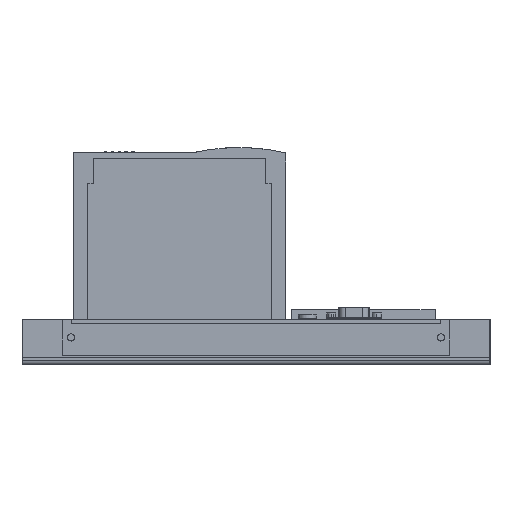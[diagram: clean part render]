
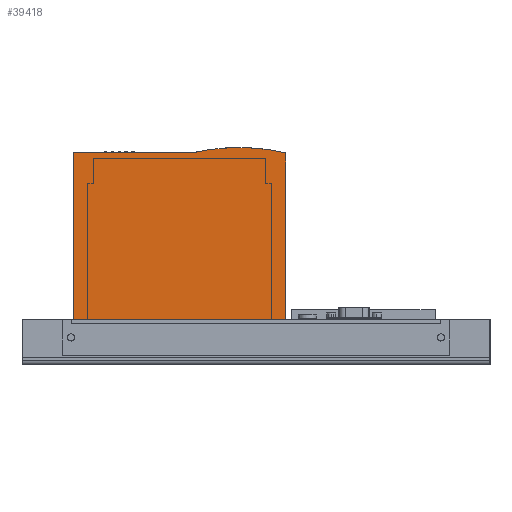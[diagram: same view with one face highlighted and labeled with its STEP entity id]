
A CAD part, left-side view. The second image highlights one B-rep face of the part: STEP entity #39418.
In plain terms, the highlighted planar face has unit normal (-1, 0, 0).
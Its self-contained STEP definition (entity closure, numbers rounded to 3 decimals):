
#645 = EDGE_CURVE ( 'NONE', #67126, #40741, #84949, .T. ) ;
#5664 = AXIS2_PLACEMENT_3D ( 'NONE', #13684, #13693, #13694 ) ;
#11202 = FACE_OUTER_BOUND ( 'NONE', #78831, .T. ) ;
#11274 = EDGE_CURVE ( 'NONE', #67590, #67582, #85828, .T. ) ;
#11276 = EDGE_CURVE ( 'NONE', #67586, #67590, #85834, .T. ) ;
#11278 = EDGE_CURVE ( 'NONE', #67126, #67586, #85832, .T. ) ;
#11280 = EDGE_CURVE ( 'NONE', #67582, #40740, #85838, .T. ) ;
#13684 = CARTESIAN_POINT ( 'NONE',  ( -301.577, -37.3, -65.626 ) ) ;
#13691 = PLANE ( 'NONE',  #5664 ) ;
#13693 = DIRECTION ( 'NONE',  ( -1., 0., 0. ) ) ;
#13694 = DIRECTION ( 'NONE',  ( 0., -1., 0. ) ) ;
#23041 = AXIS2_PLACEMENT_3D ( 'NONE', #50427, #50429, #50431 ) ;
#30741 = CARTESIAN_POINT ( 'NONE',  ( -301.577, -11.3, 32.374 ) ) ;
#30742 = CARTESIAN_POINT ( 'NONE',  ( -301.577, -37.3, 29.374 ) ) ;
#39418 = ADVANCED_FACE ( 'NONE', ( #11202 ), #13691, .T. ) ;
#40740 = VERTEX_POINT ( 'NONE', #30741 ) ;
#40741 = VERTEX_POINT ( 'NONE', #30742 ) ;
#43235 = EDGE_CURVE ( 'NONE', #40740, #40741, #51365, .T. ) ;
#50427 = CARTESIAN_POINT ( 'NONE',  ( -301.577, -11.3, -81.793 ) ) ;
#50429 = DIRECTION ( 'NONE',  ( 1., 0., 0. ) ) ;
#50431 = DIRECTION ( 'NONE',  ( 0., 0., 1. ) ) ;
#51365 = CIRCLE ( 'NONE', #23041, 114.167 ) ;
#60723 = CARTESIAN_POINT ( 'NONE',  ( -301.577, -37.3, -65.626 ) ) ;
#61141 = CARTESIAN_POINT ( 'NONE',  ( -301.577, 14.7, 29.374 ) ) ;
#61145 = CARTESIAN_POINT ( 'NONE',  ( -301.577, 80.7, -65.626 ) ) ;
#61149 = CARTESIAN_POINT ( 'NONE',  ( -301.577, 80.7, 29.374 ) ) ;
#67126 = VERTEX_POINT ( 'NONE', #60723 ) ;
#67582 = VERTEX_POINT ( 'NONE', #61141 ) ;
#67586 = VERTEX_POINT ( 'NONE', #61145 ) ;
#67590 = VERTEX_POINT ( 'NONE', #61149 ) ;
#76787 = AXIS2_PLACEMENT_3D ( 'NONE', #86841, #86842, #86843 ) ;
#78831 = EDGE_LOOP ( 'NONE', ( #80736, #80738, #80740, #80741, #80743, #80746 ) ) ;
#80736 = ORIENTED_EDGE ( 'NONE', *, *, #11274, .F. ) ;
#80738 = ORIENTED_EDGE ( 'NONE', *, *, #11276, .F. ) ;
#80740 = ORIENTED_EDGE ( 'NONE', *, *, #11278, .F. ) ;
#80741 = ORIENTED_EDGE ( 'NONE', *, *, #645, .T. ) ;
#80743 = ORIENTED_EDGE ( 'NONE', *, *, #43235, .F. ) ;
#80746 = ORIENTED_EDGE ( 'NONE', *, *, #11280, .F. ) ;
#84949 = LINE ( 'NONE', #85946, #84956 ) ;
#84956 = VECTOR ( 'NONE', #85953, 1000. ) ;
#85828 = LINE ( 'NONE', #86825, #85835 ) ;
#85832 = LINE ( 'NONE', #86828, #85839 ) ;
#85834 = LINE ( 'NONE', #86835, #85837 ) ;
#85835 = VECTOR ( 'NONE', #86834, 1000. ) ;
#85837 = VECTOR ( 'NONE', #86837, 1000. ) ;
#85838 = CIRCLE ( 'NONE', #76787, 114.167 ) ;
#85839 = VECTOR ( 'NONE', #86838, 1000. ) ;
#85946 = CARTESIAN_POINT ( 'NONE',  ( -301.577, -37.3, -65.626 ) ) ;
#85953 = DIRECTION ( 'NONE',  ( 0., 0., 1. ) ) ;
#86825 = CARTESIAN_POINT ( 'NONE',  ( -301.577, 80.7, 29.374 ) ) ;
#86828 = CARTESIAN_POINT ( 'NONE',  ( -301.577, -37.3, -65.626 ) ) ;
#86834 = DIRECTION ( 'NONE',  ( 0., -1., 0. ) ) ;
#86835 = CARTESIAN_POINT ( 'NONE',  ( -301.577, 80.7, -65.626 ) ) ;
#86837 = DIRECTION ( 'NONE',  ( 0., 0., 1. ) ) ;
#86838 = DIRECTION ( 'NONE',  ( 0., 1., 0. ) ) ;
#86841 = CARTESIAN_POINT ( 'NONE',  ( -301.577, -11.3, -81.793 ) ) ;
#86842 = DIRECTION ( 'NONE',  ( 1., 0., 0. ) ) ;
#86843 = DIRECTION ( 'NONE',  ( 0., 0., 1. ) ) ;
